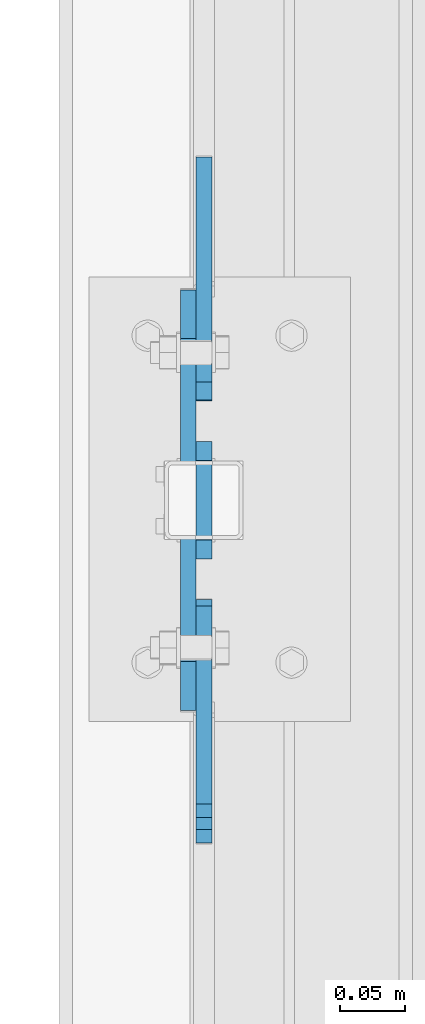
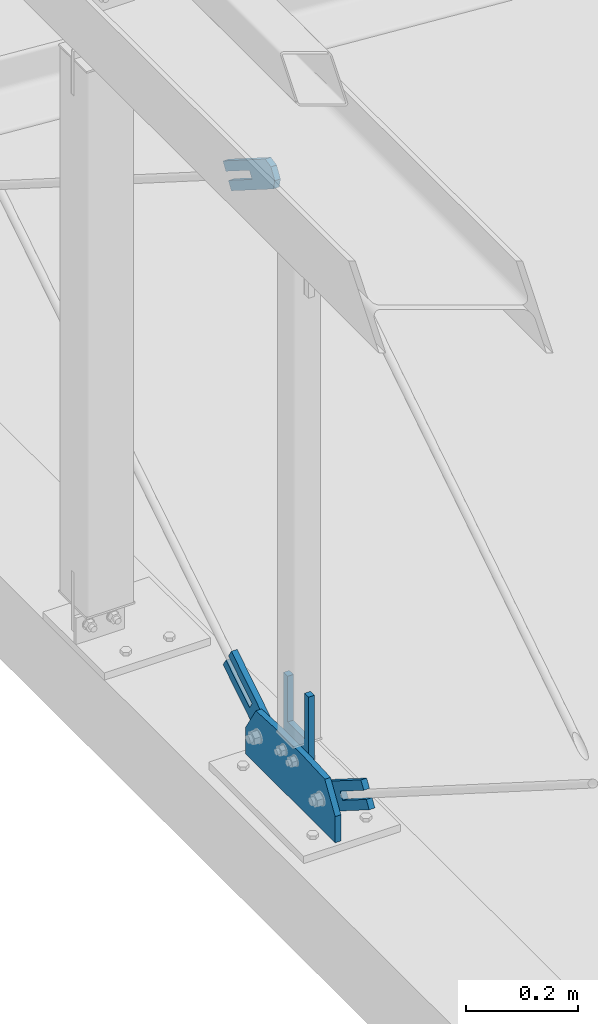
# One storey, part 106 of 271: 5 plates, 5 elements without a shape of their own.
"""IFC2X3 building model written with IfcOpenShell, lengths in millimetres."""

from ifc_helpers import new_model, si_unit, frame, origin_with_axes, place, context, subcontext, project, spatial, polyline, outline, extrude, material, type_object, element, aggregate, save


model = new_model("IFC2X3")

# Units and contexts
model_context = context("Model", 3, precision=1e-05, world=origin_with_axes())
body_context = subcontext(model_context, "Body", "Model", "MODEL_VIEW")
ifc_project = project(units=[si_unit("LENGTHUNIT", "METRE", prefix="MILLI"), si_unit("AREAUNIT", "SQUARE_METRE"), si_unit("VOLUMEUNIT", "CUBIC_METRE"), si_unit("MASSUNIT", "GRAM", prefix="KILO"), si_unit("TIMEUNIT", "SECOND"), si_unit("PLANEANGLEUNIT", "RADIAN"), si_unit("SOLIDANGLEUNIT", "STERADIAN"), si_unit("THERMODYNAMICTEMPERATUREUNIT", "DEGREE_CELSIUS"), si_unit("LUMINOUSINTENSITYUNIT", "LUMEN")], contexts=[model_context])

# Site, building, storey
site_placement = place(None, origin_with_axes())
site = spatial("IfcSite", under=ifc_project, at=site_placement, Name="Undefined", CompositionType="ELEMENT")
building_placement = place(site_placement, origin_with_axes())
building = spatial("IfcBuilding", under=site, at=building_placement, Name="Undefined", CompositionType="ELEMENT")
storey_placement = place(building_placement, origin_with_axes())
storey = spatial("IfcBuildingStorey", under=building, at=storey_placement, Name="Undefined", CompositionType="ELEMENT", Elevation=0.0)

# Assembly, plate
assembly_1_placement = place(storey_placement, origin_with_axes())
assembly_1 = element("IfcElementAssembly", 1, at=assembly_1_placement, inside=storey, AssemblyPlace="NOTDEFINED", PredefinedType="RIGID_FRAME")
ifc_material = material(Name="STEEL/S355JR")
plate_type_1 = type_object("IfcPlateType", Name="BL12*56", PredefinedType="NOTDEFINED")
plate_1_placement = place(assembly_1_placement, frame((99.0000000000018, 2068.64984306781, 33.9195722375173), z_axis=(1.0, 0.0, 0.0), x_axis=(0.0, 0.975225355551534, 0.221213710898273)))
plate_1 = element("IfcPlate", 2, at=plate_1_placement, type_object=plate_type_1, material=ifc_material, Name="BLACHA", ObjectType="BL12*56", context=body_context, shape_type="SweptSolid", body=[
    extrude(outline(polyline([(0.0, 0.0), (21.2132034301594, 1.09139364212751e-11), (39.5979804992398, 18.3847751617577), (39.5979804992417, 39.5979804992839), (-86.9741363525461, 166.170089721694), (-100.762718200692, 152.381515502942), (-30.0520401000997, 81.670829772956), (-42.0728530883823, 69.6500167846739), (-112.783531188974, 140.36070251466), (-126.57211303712, 126.57211303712), (0.0, 0.0)])), frame((0.0, 0.0, -6.0), z_axis=(0.0, 0.0, 1.0), x_axis=(1.0, 0.0, 0.0)), (0.0, 0.0, 1.0), 12.0),
])
aggregate(assembly_1, [plate_1])

assembly_2_placement = place(storey_placement, origin_with_axes())
assembly_2 = element("IfcElementAssembly", 3, at=assembly_2_placement, inside=storey, AssemblyPlace="NOTDEFINED", PredefinedType="RIGID_FRAME")
plate_2_placement = place(assembly_2_placement, frame((99.0000000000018, 2259.87992582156, 81.2961439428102), z_axis=(1.0, 0.0, 0.0), x_axis=(0.0, -0.221213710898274, -0.975225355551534)))
plate_2 = element("IfcPlate", 4, at=plate_2_placement, type_object=plate_type_1, material=ifc_material, Name="BLACHA", ObjectType="BL12*56", context=body_context, shape_type="SweptSolid", body=[
    extrude(outline(polyline([(0.0, 0.0), (21.2132034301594, 1.09139364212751e-11), (39.5979804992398, 18.3847751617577), (39.5979804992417, 39.5979804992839), (-86.9741363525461, 166.170089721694), (-100.762718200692, 152.381515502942), (-30.0520401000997, 81.670829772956), (-42.0728530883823, 69.6500167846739), (-112.783531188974, 140.36070251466), (-126.57211303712, 126.57211303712), (0.0, 0.0)])), frame((0.0, 0.0, -6.0), z_axis=(0.0, 0.0, 1.0), x_axis=(1.0, 0.0, 0.0)), (0.0, 0.0, 1.0), 12.0),
])
aggregate(assembly_2, [plate_2])

assembly_3_placement = place(storey_placement, origin_with_axes())
assembly_3 = element("IfcElementAssembly", 5, at=assembly_3_placement, inside=storey, AssemblyPlace="NOTDEFINED", PredefinedType="RIGID_FRAME")
plate_3_placement = place(assembly_3_placement, frame((99.0, 2290.30662598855, 1327.10969656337), z_axis=(1.0, 0.0, 0.0), x_axis=(0.0, -0.975735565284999, -0.218952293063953)))
plate_3 = element("IfcPlate", 6, at=plate_3_placement, type_object=plate_type_1, material=ifc_material, Name="BLACHA", ObjectType="BL12*56", context=body_context, shape_type="SweptSolid", body=[
    extrude(outline(polyline([(0.0, 0.0), (21.2132034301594, 1.09139364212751e-11), (39.5979804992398, 18.3847751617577), (39.5979804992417, 39.5979804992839), (-86.9741363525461, 166.170089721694), (-100.762718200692, 152.381515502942), (-30.0520401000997, 81.670829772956), (-42.0728530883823, 69.6500167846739), (-112.783531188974, 140.36070251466), (-126.57211303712, 126.57211303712), (0.0, 0.0)])), frame((0.0, 0.0, -6.0), z_axis=(0.0, 0.0, 1.0), x_axis=(1.0, 0.0, 0.0)), (0.0, 0.0, 1.0), 12.0),
])
aggregate(assembly_3, [plate_3])

assembly_4_placement = place(storey_placement, origin_with_axes())
assembly_4 = element("IfcElementAssembly", 7, at=assembly_4_placement, inside=storey, AssemblyPlace="NOTDEFINED", PredefinedType="RIGID_FRAME")
plate_type_2 = type_object("IfcPlateType", Name="BL12*90", PredefinedType="NOTDEFINED")
plate_4_placement = place(assembly_4_placement, frame((99.0000000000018, 2134.19355050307, 85.2313232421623), z_axis=(1.0, 0.0, 0.0), x_axis=(0.0, 0.707106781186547, -0.707106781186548)))
plate_4 = element("IfcPlate", 8, at=plate_4_placement, type_object=plate_type_2, material=ifc_material, Name="BLACHA", ObjectType="BL12*90", context=body_context, shape_type="SweptSolid", body=[
    extrude(outline(polyline([(0.0, 0.0), (21.2132034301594, 1.09139364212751e-11), (63.6396102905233, 42.4264068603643), (63.6396102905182, 63.6396102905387), (-48.7903671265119, 176.069595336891), (-59.0434150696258, 165.816543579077), (11.6672620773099, 95.1058654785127), (-31.4662513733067, 51.9723472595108), (-102.176933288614, 122.683029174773), (-112.42997741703, 112.429977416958), (0.0, 0.0)])), frame((0.0, 0.0, -6.0), z_axis=(0.0, 0.0, 1.0), x_axis=(1.0, 0.0, 0.0)), (0.0, 0.0, 1.0), 12.0),
])
aggregate(assembly_4, [plate_4])

assembly_5_placement = place(storey_placement, origin_with_axes())
assembly_5 = element("IfcElementAssembly", 9, at=assembly_5_placement, inside=storey, AssemblyPlace="NOTDEFINED", PredefinedType="RIGID_FRAME")
plate_type_3 = type_object("IfcPlateType", Name="BL12*120", PredefinedType="NOTDEFINED")
plate_5_placement = place(assembly_5_placement, frame((87.0000000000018, 2018.38711547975, -2.52384779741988e-11), z_axis=(1.0, 0.0, 0.0), x_axis=(0.0, 1.0, 0.0)))
plate_5 = element("IfcPlate", 10, at=plate_5_placement, type_object=plate_type_3, material=ifc_material, Name="BLACHA", ObjectType="BL12*120", context=body_context, shape_type="SweptSolid", body=[
    extrude(outline(polyline([(0.0, 0.0), (321.612884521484, 0.0), (321.612884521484, 57.3216705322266), (284.291198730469, 116.542381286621), (210.806442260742, 120.231323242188), (110.806434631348, 120.231323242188), (37.3216705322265, 116.542381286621), (0.0, 57.3216705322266), (0.0, 0.0)])), frame((0.0, 0.0, -6.0), z_axis=(0.0, 0.0, 1.0), x_axis=(1.0, 0.0, 0.0)), (0.0, 0.0, 1.0), 12.0),
])
aggregate(assembly_5, [plate_5])

save(model, "model.ifc")
